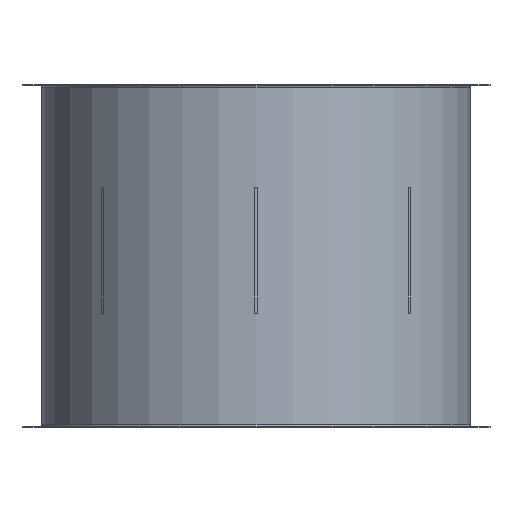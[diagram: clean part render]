
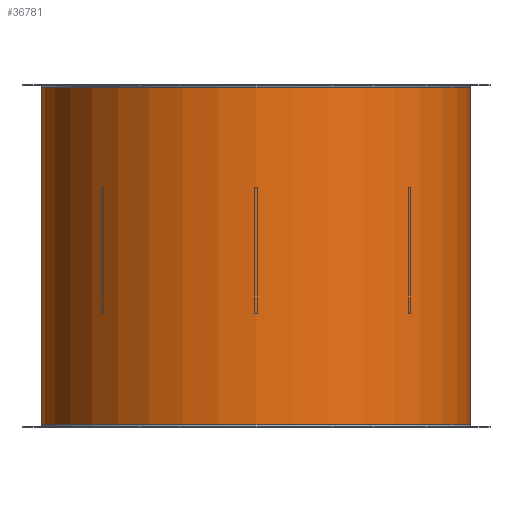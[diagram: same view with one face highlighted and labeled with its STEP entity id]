
A CAD part, front view. The second image highlights one B-rep face of the part: STEP entity #36781.
In plain terms, the highlighted cylindrical face has radius 563 mm (diameter 1126 mm), a partial arc.
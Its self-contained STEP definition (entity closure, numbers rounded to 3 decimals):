
#946 = CYLINDRICAL_SURFACE ( 'NONE', #32435, 563. ) ;
#2221 = DIRECTION ( 'NONE',  ( 1., 0., 0. ) ) ;
#9323 = LINE ( 'NONE', #76857, #37115 ) ;
#10596 = EDGE_CURVE ( 'NONE', #43030, #23299, #17724, .T. ) ;
#14988 = DIRECTION ( 'NONE',  ( 0., 0., 1. ) ) ;
#17724 = LINE ( 'NONE', #59445, #72366 ) ;
#18519 = CARTESIAN_POINT ( 'NONE',  ( 563., 0., 444. ) ) ;
#22909 = CIRCLE ( 'NONE', #76919, 563. ) ;
#23299 = VERTEX_POINT ( 'NONE', #61720 ) ;
#27716 = VERTEX_POINT ( 'NONE', #43495 ) ;
#32435 = AXIS2_PLACEMENT_3D ( 'NONE', #77789, #78360, #38819 ) ;
#36781 = ADVANCED_FACE ( 'NONE', ( #42173 ), #946, .T. ) ;
#37115 = VECTOR ( 'NONE', #43355, 1000. ) ;
#38819 = DIRECTION ( 'NONE',  ( 1., 0., 0. ) ) ;
#40333 = CARTESIAN_POINT ( 'NONE',  ( -563., 0., -444. ) ) ;
#41659 = CARTESIAN_POINT ( 'NONE',  ( 0., 0., 444. ) ) ;
#42002 = DIRECTION ( 'NONE',  ( 1., 0., 0. ) ) ;
#42173 = FACE_OUTER_BOUND ( 'NONE', #84292, .T. ) ;
#43030 = VERTEX_POINT ( 'NONE', #40333 ) ;
#43355 = DIRECTION ( 'NONE',  ( 0., 0., 1. ) ) ;
#43495 = CARTESIAN_POINT ( 'NONE',  ( 563., 0., -444. ) ) ;
#47454 = CARTESIAN_POINT ( 'NONE',  ( 0., 0., -444. ) ) ;
#52361 = EDGE_CURVE ( 'NONE', #43030, #27716, #55019, .T. ) ;
#54955 = EDGE_CURVE ( 'NONE', #23299, #80262, #22909, .T. ) ;
#55019 = CIRCLE ( 'NONE', #61334, 563. ) ;
#55898 = ORIENTED_EDGE ( 'NONE', *, *, #10596, .F. ) ;
#59445 = CARTESIAN_POINT ( 'NONE',  ( -563., 0., 32.456 ) ) ;
#61334 = AXIS2_PLACEMENT_3D ( 'NONE', #47454, #14988, #42002 ) ;
#61573 = DIRECTION ( 'NONE',  ( 0., 0., 1. ) ) ;
#61720 = CARTESIAN_POINT ( 'NONE',  ( -563., 0., 444. ) ) ;
#65532 = DIRECTION ( 'NONE',  ( 0., 0., 1. ) ) ;
#72366 = VECTOR ( 'NONE', #65532, 1000. ) ;
#72394 = EDGE_CURVE ( 'NONE', #27716, #80262, #9323, .T. ) ;
#76857 = CARTESIAN_POINT ( 'NONE',  ( 563., 0., 32.456 ) ) ;
#76919 = AXIS2_PLACEMENT_3D ( 'NONE', #41659, #61573, #2221 ) ;
#77210 = ORIENTED_EDGE ( 'NONE', *, *, #52361, .T. ) ;
#77789 = CARTESIAN_POINT ( 'NONE',  ( 0., 0., 32.456 ) ) ;
#78102 = ORIENTED_EDGE ( 'NONE', *, *, #72394, .T. ) ;
#78360 = DIRECTION ( 'NONE',  ( 0., 0., 1. ) ) ;
#80262 = VERTEX_POINT ( 'NONE', #18519 ) ;
#84292 = EDGE_LOOP ( 'NONE', ( #55898, #77210, #78102, #85330 ) ) ;
#85330 = ORIENTED_EDGE ( 'NONE', *, *, #54955, .F. ) ;
